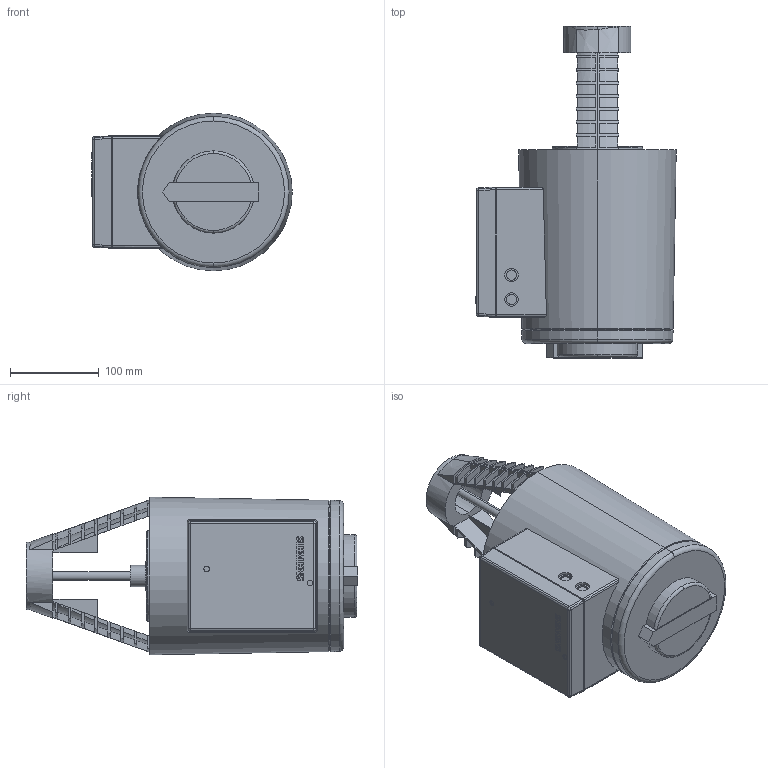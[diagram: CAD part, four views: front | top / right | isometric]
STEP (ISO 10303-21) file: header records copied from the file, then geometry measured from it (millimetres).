
FILE_DESCRIPTION((''),'2;1');
FILE_NAME('SKB_SKC60_62.stp','2006-10-04T16:25:29',(''),(''),'Mechanical Desktop 2006','Mechanical Desktop 2006',', , ');
FILE_SCHEMA(('AUTOMOTIVE_DESIGN { 1 2 10303 214 0 1 1 1 }'));
Length unit declared in the file: millimetre
Products named in the file (2): Product; RM_SDB
Bounding box: 226.4 x 375 x 178 mm (x, y, z)
Volume: 6662302 mm3; surface area: 428700.2 mm2
Topology: 16 solids, 16 shells, 507 faces, 1358 edges, 893 vertices
Faces by surface type: plane 189, bspline 150, cylinder 126, cone 30, torus 8, sphere 4
Entity records: 16808 total; most frequent: CARTESIAN_POINT 4370, ORIENTED_EDGE 2712, DIRECTION 2422, EDGE_CURVE 1356, VERTEX_POINT 893, AXIS2_PLACEMENT_3D 835, VECTOR 752, LINE 752
